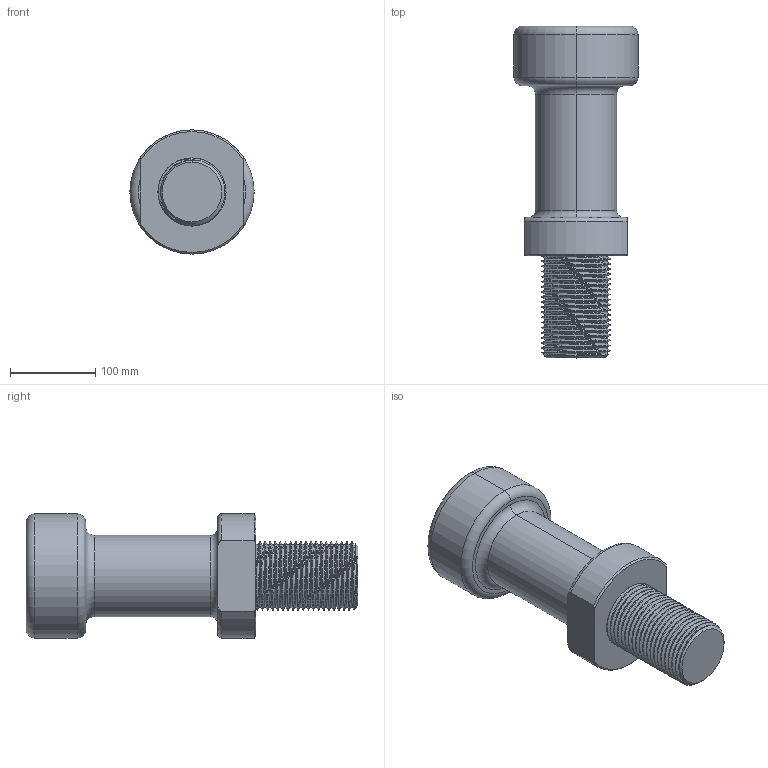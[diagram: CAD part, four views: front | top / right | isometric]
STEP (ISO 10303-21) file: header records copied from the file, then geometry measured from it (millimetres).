
FILE_DESCRIPTION (( 'STEP AP214' ), '1' );
FILE_NAME ('Plots_M80.STEP', '2022-03-14T16:27:42', ( '' ), ( '' ), 'SwSTEP 2.0', 'SolidWorks 2021', '' );
FILE_SCHEMA (( 'AUTOMOTIVE_DESIGN' ));
Length unit declared in the file: millimetre
Products named in the file (1): Plots_M80
Bounding box: 146 x 390 x 146 mm (x, y, z)
Volume: 3516095.5 mm3; surface area: 191178.3 mm2
Topology: 1 solids, 1 shells, 75 faces, 199 edges, 129 vertices
Faces by surface type: cylinder 46, torus 11, plane 8, cone 6, bspline 4
Entity records: 10039 total; most frequent: CARTESIAN_POINT 8405, ORIENTED_EDGE 398, DIRECTION 285, EDGE_CURVE 199, VERTEX_POINT 129, AXIS2_PLACEMENT_3D 115, EDGE_LOOP 78, ADVANCED_FACE 75
